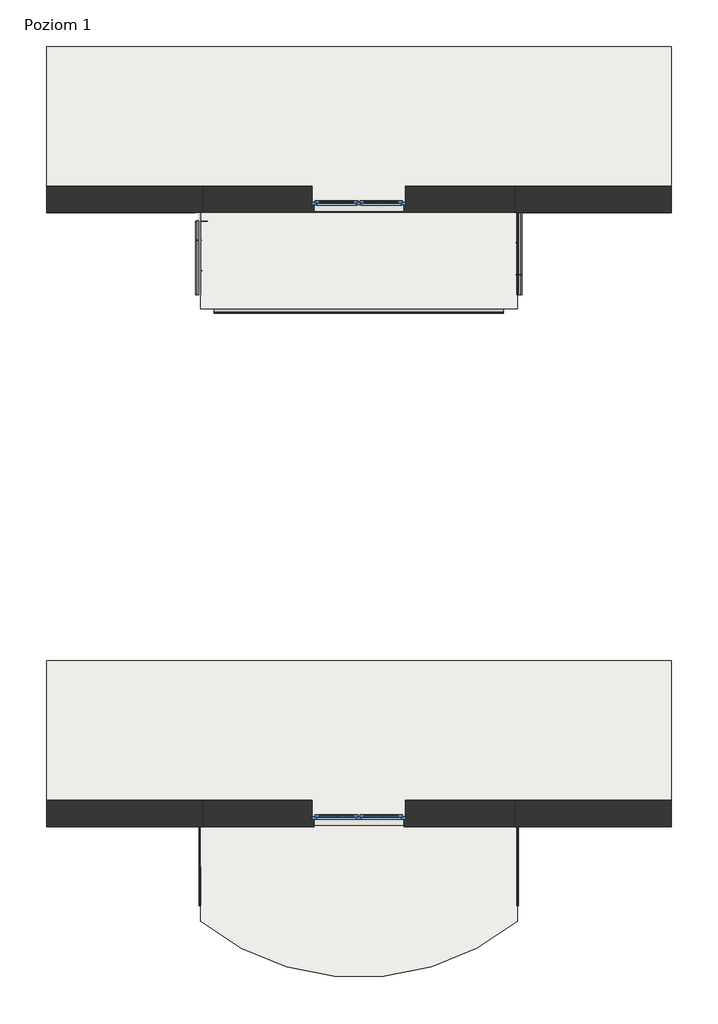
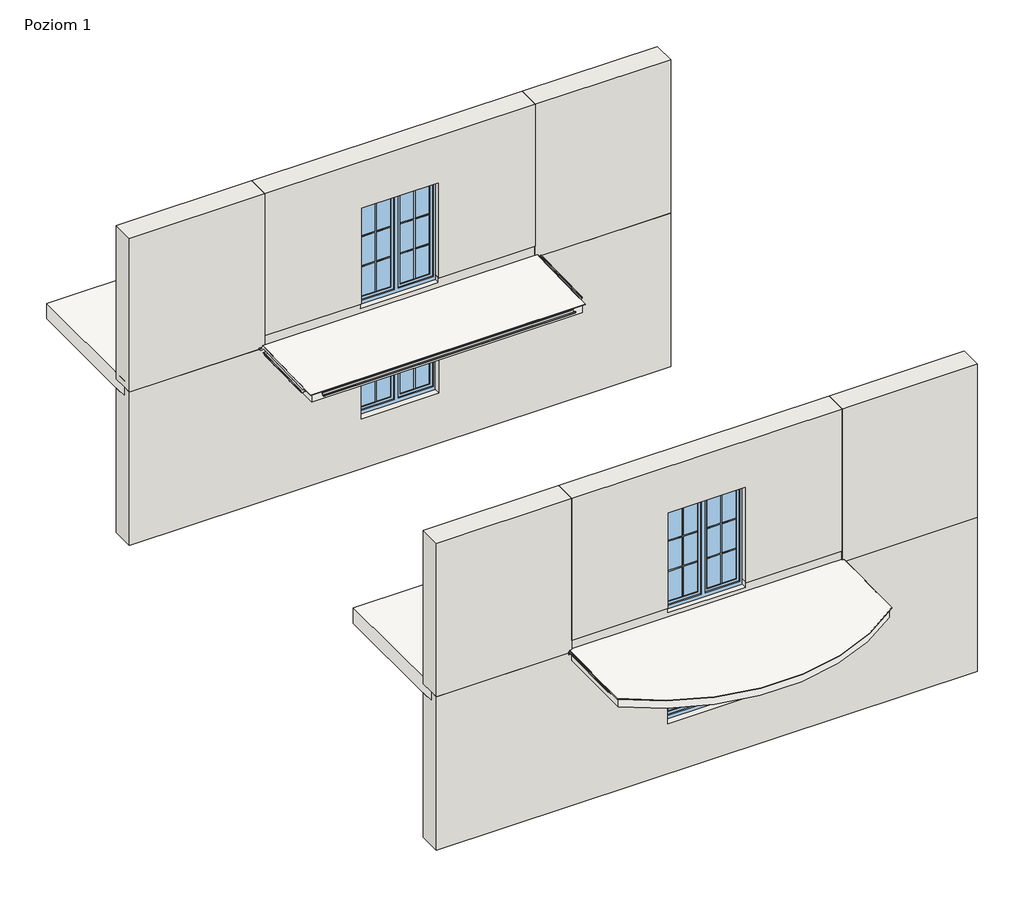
# One storey, part 1 of 4: 10 walls, 8 proxies, 6 slabs, 4 windows.
"""IFC4 building model written with IfcOpenShell, lengths in millimetres."""

from ifc_helpers import new_model, si_unit, frame, origin, place, context, project, spatial, polyline, circle_curve, ellipse_curve, outline, extrude, faceted_brep, transform, mapped, element, save
from ifc_brep_helpers import plane_surface, cylinder_surface, advanced_brep
from components import generic_models_18ada34d, generic_models_643b4672, k40_b5363764, k40_bf73bbdf, k40_0e8d84a9, rynna_alu_r75_rynna_alu_r75_52cbeec6, rynna_alu_r75_rynna_alu_r75_f71106fe, rynna_alu_r75_rynna_alu_r75_795bf1eb, window_150x150_51b7f79a, window_150x200_12b14935

model = new_model("IFC4")

# Units and contexts
model_context = context("Model", 3, world=origin())
ifc_project = project(units=[si_unit("LENGTHUNIT", "METRE", prefix="MILLI")], contexts=[model_context])

# Site, building, storey
site = spatial("IfcSite", under=ifc_project)
building = spatial("IfcBuilding", under=site)
storey = spatial("IfcBuildingStorey", under=building, Name="Poziom 1", Elevation=0.0)

# Proxies
placement = place(None, origin())
generic_models_shape = generic_models_18ada34d(model_context)
element("IfcBuildingElementProxy", 1, Name="Odbojnik - OPK40 : Odbojnik - OPK40", ObjectType="Odbojnik - OPK40 : Odbojnik - OPK40", at=placement, inside=storey, context=model_context, shape_type="MappedRepresentation", body=[
    mapped(generic_models_shape, transform((-97998.8460364, 46566.571688, -141.5905593), x_axis=(-0.002002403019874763, -0.999918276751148, -0.012626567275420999), y_axis=(0.9999979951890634, -0.0020022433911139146, -2.5283527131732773e-05), z_axis=(0.0, -0.0126265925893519, 0.9999202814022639))),
])
generic_models_2_shape = generic_models_643b4672(model_context)
element("IfcBuildingElementProxy", 2, Name="Odbojnik - OPK40 : Odbojnik - OPK40", ObjectType="Odbojnik - OPK40 : Odbojnik - OPK40", at=placement, inside=storey, context=model_context, shape_type="MappedRepresentation", body=[
    mapped(generic_models_2_shape, transform((-102991.9792681, 46576.4411516, -141.4659317), x_axis=(0.0016392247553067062, -0.9999189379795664, -0.01262657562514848), y_axis=(0.9999986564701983, 0.0016390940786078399, 2.069782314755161e-05), z_axis=(0.0, -0.0126265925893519, 0.9999202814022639))),
])
k40_shape = k40_b5363764(model_context)
element("IfcBuildingElementProxy", 3, Name="K40 Profil okapowy prosty z rynną : K40", ObjectType="K40 Profil okapowy prosty z rynną : K40", at=placement, inside=storey, context=model_context, shape_type="MappedRepresentation", body=[
    mapped(k40_shape, transform((-97960.9279978, 45309.9969157, -96.37542), x_axis=(0.002002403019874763, 0.999918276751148, 0.012626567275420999), y_axis=(-0.9999979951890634, 0.0020022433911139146, 2.5283527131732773e-05), z_axis=(0.0, -0.0126265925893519, 0.9999202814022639))),
])
k40_2_shape = k40_bf73bbdf(model_context)
element("IfcBuildingElementProxy", 4, Name="K40 Profil okapowy prosty z rynną : K40", ObjectType="K40 Profil okapowy prosty z rynną : K40", at=placement, inside=storey, context=model_context, shape_type="MappedRepresentation", body=[
    mapped(k40_2_shape, transform((-103030.3372348, 45310.0062743, -96.3753018), x_axis=(-0.0016392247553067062, 0.9999189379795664, 0.01262657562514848), y_axis=(-0.9999986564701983, -0.0016390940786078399, -2.069782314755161e-05), z_axis=(0.0, -0.0126265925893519, 0.9999202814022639))),
])
k40_3_shape = k40_0e8d84a9(model_context)
element("IfcBuildingElementProxy", 5, Name="K40 Profil okapowy prosty z rynną : K40", ObjectType="K40 Profil okapowy prosty z rynną : K40", at=placement, inside=storey, context=model_context, shape_type="MappedRepresentation", body=[
    mapped(k40_3_shape, transform((-97958.4147313, 55084.7621374, -104.9084444), x_axis=(0.0, 0.9997639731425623, 0.021725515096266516), y_axis=(-1.0, 0.0, 0.0), z_axis=(0.0, -0.021725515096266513, 0.9997639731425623))),
])
rynna_alu_r75_rynna_alu_r75_shape = rynna_alu_r75_rynna_alu_r75_52cbeec6(model_context)
element("IfcBuildingElementProxy", 6, Name="Rynna ALU R75 : Rynna ALU R75", ObjectType="Rynna ALU R75 : Rynna ALU R75", at=placement, inside=storey, context=model_context, shape_type="MappedRepresentation", body=[
    mapped(rynna_alu_r75_rynna_alu_r75_shape, transform((-103015.6237583, 55675.249269, -120.9154653), x_axis=(-1.4861025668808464e-12, -0.9997639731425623, -0.02172551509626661), y_axis=(1.0, -1.4857485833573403e-12, 0.0), z_axis=(0.0, -0.021725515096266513, 0.9997639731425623))),
])
rynna_alu_r75_rynna_alu_r75_2_shape = rynna_alu_r75_rynna_alu_r75_f71106fe(model_context)
element("IfcBuildingElementProxy", 7, Name="Rynna ALU R75 : Rynna ALU R75", ObjectType="Rynna ALU R75 : Rynna ALU R75", at=placement, inside=storey, context=model_context, shape_type="MappedRepresentation", body=[
    mapped(rynna_alu_r75_rynna_alu_r75_2_shape, transform((-100495.4147313, 54882.2274606, -138.14834), x_axis=(1.0, 0.0, 0.0), y_axis=(0.0, 0.9997639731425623, 0.021725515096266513), z_axis=(0.0, -0.021725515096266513, 0.9997639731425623))),
])
rynna_alu_r75_rynna_alu_r75_3_shape = rynna_alu_r75_rynna_alu_r75_795bf1eb(model_context)
element("IfcBuildingElementProxy", 8, Name="Rynna ALU R75 : Rynna ALU R75", ObjectType="Rynna ALU R75 : Rynna ALU R75", at=placement, inside=storey, context=model_context, shape_type="MappedRepresentation", body=[
    mapped(rynna_alu_r75_rynna_alu_r75_3_shape, transform((-97975.2057043, 55741.3502895, -119.4790476), x_axis=(0.0, 0.9997639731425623, 0.021725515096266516), y_axis=(-1.0, 0.0, 0.0), z_axis=(0.0, -0.021725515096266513, 0.9997639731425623))),
])

# Slabs
element("IfcSlab", 9, ObjectType="Balkon - wykończenie - posadzka ceramiczna", at=placement, inside=storey, context=model_context, shape_type="AdvancedBrep", body=[
    advanced_brep(
    [(-103032.4147313, 46685.9674703, -76.3), (-103032.4147313, 46685.9674703, -92.3), (-103032.4147313, 45060.2435474, -112.8289902), (-103032.4147313, 45060.2435474, -96.8289902), (-102995.4147313, 46685.9674703, -76.3), (-97995.4147313, 46685.9674703, -76.3), (-97958.4147313, 46685.9674703, -76.3), (-97958.4147313, 46685.9674703, -92.3), (-97958.4147313, 45060.2435474, -96.8289902), (-97958.4147313, 45060.2435474, -112.8289902)],
    [
        (0, 1),
        (1, 2),
        (2, 3),
        (3, 0),
        (0, 4),
        (4, 5),
        (5, 6),
        (6, 7),
        (7, 1),
        (6, 8),
        (8, 9),
        (9, 7),
        (3, 8, ellipse_curve(frame((-100495.4147313, 48200.4664695, -57.1755136), z_axis=(0.0, -0.0126265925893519, 0.9999202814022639), x_axis=(0.0, -0.9999202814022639, -0.0126265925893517)), 4037.3218496, 4037.0)),
        (9, 2, ellipse_curve(frame((-100495.4147313, 48200.4664695, -73.1755136), z_axis=(0.0, 0.0126265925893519, -0.9999202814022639), x_axis=(0.0, -0.9999202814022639, -0.0126265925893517)), 4037.3218496, 4037.0)),
    ],
    [
        plane_surface(frame((-103032.4147313, 44040.9674703, -125.7), z_axis=(-1.0, 0.0, 0.0), x_axis=(0.0, 0.0, 1.0))),
        plane_surface(frame((-103032.4147313, 46685.9674703, -125.7), z_axis=(0.0, 1.0, 0.0), x_axis=(0.0, 0.0, 1.0))),
        plane_surface(frame((-97958.4147313, 46685.9674703, -125.7), z_axis=(1.0, 0.0, 0.0), x_axis=(0.0, 0.0, 1.0))),
        plane_surface(frame((-100495.4147313, 45363.4674703, -93.0), z_axis=(0.0, -0.0126265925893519, 0.9999202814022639), x_axis=(0.0, 0.9999202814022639, 0.0126265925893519))),
        plane_surface(frame((-100495.4147313, 45363.4674703, -109.0), z_axis=(0.0, 0.0126265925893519, -0.9999202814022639), x_axis=(0.0, 0.9999202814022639, 0.0126265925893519))),
        cylinder_surface(frame((-100495.4147313, 48200.4664695, -430.5), z_axis=(0.0, 0.0, -1.0), x_axis=(1.0, 0.0, 0.0)), 4037.0),
    ],
    [
        (0, [[1, 2, 3, 4]]),
        (1, [[-1, 5, 6, 7, 8, 9]]),
        (2, [[-8, 10, 11, 12]]),
        (3, [[-7, -6, -5, -4, 13, -10]]),
        (4, [[-9, -12, 14, -2]]),
        (5, [[-3, -14, -11, -13]]),
    ],
),
])
element("IfcSlab", 10, ObjectType="Balkon - wykończenie - posadzka ceramiczna", at=placement, inside=storey, context=model_context, shape_type="SweptSolid", body=[
    extrude(outline(polyline([(54864.2645056, -125.7), (54864.2645056, -109.7), (56401.2645056, -76.3), (56401.2645056, -92.3), (54864.2645056, -125.7)])), frame((-103032.4147313, 0.0, 0.0), z_axis=(1.0, 0.0, 0.0), x_axis=(0.0, 1.0, 0.0)), (0.0, 0.0, 1.0), 5074.0),
])
element("IfcSlab", 11, ObjectType="Balkon - konstrukcja", at=placement, inside=storey, context=model_context, shape_type="AdvancedBrep", body=[
    advanced_brep(
    [(-102995.4147313, 46685.9674703, -285.0), (-97995.4147313, 46685.9674703, -285.0), (-97995.4147313, 46577.9674703, -285.0), (-97995.4147313, 45077.9674703, -285.0), (-102995.4147313, 45077.9674703, -285.0), (-102995.4147313, 46577.9674703, -285.0), (-102995.4147313, 46685.9674703, -92.3), (-102995.4147313, 46685.9674703, -125.0), (-102995.4147313, 45077.9674703, -112.4616564), (-97995.4147313, 46685.9674703, -92.3), (-97995.4147313, 46685.9674703, -125.0), (-97995.4147313, 45077.9674703, -112.4616564)],
    [
        (0, 1),
        (1, 2),
        (2, 3),
        (3, 4, circle_curve(frame((-100495.4147313, 48200.4664695, -285.0), z_axis=(0.0, 0.0, -1.0), x_axis=(1.0, 0.0, 0.0)), 4000.0)),
        (4, 5),
        (5, 0),
        (6, 7),
        (7, 0),
        (4, 8),
        (8, 6),
        (6, 9),
        (9, 10),
        (10, 1),
        (9, 11),
        (11, 3),
        (8, 11, ellipse_curve(frame((-100495.4147313, 48200.4664695, -73.3106912), z_axis=(0.0, -0.012537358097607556, 0.9999214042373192), x_axis=(0.0, -0.9999214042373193, -0.012537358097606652)), 4000.3144078, 4000.0)),
    ],
    [
        plane_surface(frame((-102995.4147313, 46685.9674703, -285.0), z_axis=(0.0, 0.0, -1.0), x_axis=(0.0, 1.0, 0.0))),
        plane_surface(frame((-102995.4147313, 44077.9674703, -285.0), z_axis=(-1.0, 0.0, 0.0), x_axis=(0.0, 0.0, 1.0))),
        plane_surface(frame((-102995.4147313, 46685.9674703, -285.0), z_axis=(0.0, 1.0, 0.0), x_axis=(0.0, 0.0, 1.0))),
        plane_surface(frame((-97995.4147313, 46685.9674703, -285.0), z_axis=(1.0, 0.0, 0.0), x_axis=(0.0, 0.0, 1.0))),
        plane_surface(frame((-100495.4147313, 45381.9674703, -108.65), z_axis=(0.0, -0.012537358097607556, 0.9999214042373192), x_axis=(0.0, 0.9999214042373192, 0.012537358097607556))),
        cylinder_surface(frame((-100495.4147313, 48200.4664695, -589.8), z_axis=(0.0, 0.0, -1.0), x_axis=(1.0, 0.0, 0.0)), 4000.0),
    ],
    [
        (0, [[1, 2, 3, 4, 5, 6]]),
        (1, [[7, 8, -6, -5, 9, 10]]),
        (2, [[-1, -8, -7, 11, 12, 13]]),
        (3, [[-13, -12, 14, 15, -3, -2]]),
        (4, [[-11, -10, 16, -14]]),
        (5, [[-4, -15, -16, -9]]),
    ],
),
])
element("IfcSlab", 12, ObjectType="Balkon - konstrukcja", at=placement, inside=storey, context=model_context, shape_type="Brep", body=[
    faceted_brep([(-102995.4147313, 54901.2645056, -285.0), (-102995.4147313, 56401.2645056, -285.0), (-102995.4147313, 56509.2645056, -285.0), (-97995.4147313, 56509.2645056, -285.0), (-97995.4147313, 56401.2645056, -285.0), (-97995.4147313, 54901.2645056, -285.0), (-102995.4147313, 54901.2645056, -125.0), (-102995.4147313, 56423.2645056, -94.0488806), (-102995.4147313, 56509.2645056, -92.3), (-102995.4147313, 56509.2645056, -125.0), (-97995.4147313, 56509.2645056, -92.3), (-97995.4147313, 56509.2645056, -125.0), (-97995.4147313, 54901.2645056, -125.0), (-97995.4147313, 56423.2645056, -94.0488806)], [[[0, 1, 2, 3, 4, 5]], [[2, 1, 0, 6, 7, 8, 9]], [[3, 2, 9, 8, 10, 11]], [[0, 5, 12, 6]], [[5, 4, 3, 11, 10, 13, 12]], [[12, 13, 10, 8, 7, 6]]]),
])
element("IfcSlab", 13, ObjectType="Strop", at=placement, inside=storey, context=model_context, shape_type="Brep", body=[
    faceted_brep([(-95495.4147313, 46732.9674703, -300.0), (-105495.4147313, 46732.9674703, -300.0), (-105495.4147313, 46997.9674703, -300.0), (-105495.4147313, 49232.9674703, -300.0), (-95495.4147313, 49232.9674703, -300.0), (-95495.4147313, 46997.9674703, -300.0), (-95495.4147313, 46732.9674703, 0.0), (-95495.4147313, 49232.9674703, 0.0), (-105495.4147313, 49232.9674703, 0.0), (-105495.4147313, 46732.9674703, 0.0), (-102995.4147313, 46732.9674703, 0.0), (-101245.4147313, 46732.9674703, 0.0), (-99745.4147313, 46732.9674703, 0.0), (-97995.4147313, 46732.9674703, 0.0), (-95495.4147313, 46732.9674703, -125.0), (-105495.4147313, 46732.9674703, -125.0)], [[[0, 1, 2, 3, 4, 5]], [[6, 7, 8, 9, 10, 11, 12, 13]], [[1, 0, 14, 6, 13, 12, 11, 10, 9, 15]], [[3, 2, 1, 15, 9, 8]], [[4, 3, 8, 7]], [[0, 5, 4, 7, 6, 14]]]),
])
element("IfcSlab", 14, ObjectType="Strop", at=placement, inside=storey, context=model_context, shape_type="Brep", body=[
    faceted_brep([(-95495.4147313, 56556.2645056, -300.0), (-105495.4147313, 56556.2645056, -300.0), (-105495.4147313, 56821.2645056, -300.0), (-105495.4147313, 59056.2645056, -300.0), (-95495.4147313, 59056.2645056, -300.0), (-95495.4147313, 56821.2645056, -300.0), (-95495.4147313, 56556.2645056, 0.0), (-95495.4147313, 59056.2645056, 0.0), (-105495.4147313, 59056.2645056, 0.0), (-105495.4147313, 56556.2645056, 0.0), (-102995.4147313, 56556.2645056, 0.0), (-101245.4147313, 56556.2645056, 0.0), (-99745.4147313, 56556.2645056, 0.0), (-97995.4147313, 56556.2645056, 0.0), (-95495.4147313, 56556.2645056, -125.0), (-105495.4147313, 56556.2645056, -125.0)], [[[0, 1, 2, 3, 4, 5]], [[6, 7, 8, 9, 10, 11, 12, 13]], [[1, 0, 14, 6, 13, 12, 11, 10, 9, 15]], [[3, 2, 1, 15, 9, 8]], [[4, 3, 8, 7]], [[0, 5, 4, 7, 6, 14]]]),
])

# Walls
element("IfcWall", 15, ObjectType="Porotherm P+W 25 + o15 + t", at=placement, inside=storey, context=model_context, shape_type="Brep", body=[
    faceted_brep([(-105495.4147313, 46577.9674703, -3125.0), (-95495.4147313, 46577.9674703, -3125.0), (-95495.4147313, 46577.9674703, -125.0), (-97995.4147313, 46577.9674703, -125.0), (-97995.4147313, 46577.9674703, -285.0), (-102995.4147313, 46577.9674703, -285.0), (-102995.4147313, 46577.9674703, -125.0), (-105495.4147313, 46577.9674703, -125.0), (-99775.4147313, 46577.9674703, -680.0), (-99775.4147313, 46577.9674703, -2150.0), (-101215.4147313, 46577.9674703, -2150.0), (-101215.4147313, 46577.9674703, -680.0), (-95495.4147313, 46997.9674703, -3125.0), (-105495.4147313, 46997.9674703, -3125.0), (-105495.4147313, 46997.9674703, -300.0), (-95495.4147313, 46997.9674703, -300.0), (-99745.4147313, 46997.9674703, -2150.0), (-99745.4147313, 46997.9674703, -650.0), (-101245.4147313, 46997.9674703, -650.0), (-101245.4147313, 46997.9674703, -2150.0), (-95495.4147313, 46732.9674703, -300.0), (-95495.4147313, 46732.9674703, -125.0), (-97995.4147313, 46732.9674703, -125.0), (-102995.4147313, 46732.9674703, -125.0), (-105495.4147313, 46732.9674703, -125.0), (-102995.4147313, 46685.9674703, -125.0), (-97995.4147313, 46685.9674703, -125.0), (-105495.4147313, 46732.9674703, -300.0), (-99745.4147313, 46697.9674703, -650.0), (-99745.4147313, 46697.9674703, -2150.0), (-99775.4147313, 46697.9674703, -680.0), (-99775.4147313, 46697.9674703, -2150.0), (-97995.4147313, 46685.9674703, -285.0), (-102995.4147313, 46685.9674703, -285.0), (-101245.4147313, 46697.9674703, -650.0), (-101245.4147313, 46697.9674703, -2150.0), (-101215.4147313, 46697.9674703, -2150.0), (-101215.4147313, 46697.9674703, -680.0)], [[[0, 1, 2, 3, 4, 5, 6, 7], [8, 9, 10, 11]], [[12, 13, 14, 15], [16, 17, 18, 19]], [[1, 0, 13, 12]], [[2, 1, 12, 15, 20, 21]], [[2, 21, 22, 23, 24, 7, 6, 25, 26, 3]], [[0, 7, 24, 27, 14, 13]], [[28, 17, 16, 29]], [[8, 30, 31, 9]], [[27, 20, 15, 14]], [[20, 27, 24, 23, 22, 21]], [[32, 33, 5, 4]], [[5, 33, 25, 6]], [[33, 32, 26, 25]], [[32, 4, 3, 26]], [[17, 28, 34, 18]], [[29, 16, 19, 35, 36, 10, 9, 31]], [[34, 28, 29, 31, 30, 37, 36, 35]], [[34, 35, 19, 18]], [[30, 8, 11, 37]], [[10, 36, 37, 11]]]),
])
element("IfcWall", 16, ObjectType="Porotherm P+W 25 + o15 + t", at=placement, inside=storey, context=model_context, shape_type="Brep", body=[
    faceted_brep([(-105495.4147313, 46577.9674703, -125.0), (-102995.4147313, 46577.9674703, -125.0), (-102995.4147313, 46577.9674703, 100.0), (-102995.4147313, 46577.9674703, 2875.0), (-105495.4147313, 46577.9674703, 2875.0), (-105495.4147313, 46997.9674703, -125.0), (-105495.4147313, 46997.9674703, 2875.0), (-102995.4147313, 46997.9674703, 2875.0), (-102995.4147313, 46997.9674703, 100.0), (-102995.4147313, 46997.9674703, 0.0), (-102995.4147313, 46997.9674703, -125.0), (-105495.4147313, 46732.9674703, -125.0), (-102995.4147313, 46732.9674703, -125.0), (-102995.4147313, 46685.9674703, -125.0)], [[[0, 1, 2, 3, 4]], [[5, 6, 7, 8, 9, 10]], [[1, 0, 11, 5, 10, 12, 13]], [[4, 3, 7, 6]], [[0, 4, 6, 5, 11]], [[1, 13, 12, 10, 9, 8, 7, 3, 2]]]),
])
element("IfcWall", 17, ObjectType="Porotherm P+W 25 + o15 + t", at=placement, inside=storey, context=model_context, shape_type="Brep", body=[
    faceted_brep([(-97995.4147313, 46577.9674703, 2875.0), (-97995.4147313, 46577.9674703, 100.0), (-97995.4147313, 46577.9674703, -125.0), (-95495.4147313, 46577.9674703, -125.0), (-95495.4147313, 46577.9674703, 2875.0), (-97995.4147313, 46997.9674703, -125.0), (-97995.4147313, 46997.9674703, 0.0), (-97995.4147313, 46997.9674703, 100.0), (-97995.4147313, 46997.9674703, 2875.0), (-95495.4147313, 46997.9674703, 2875.0), (-95495.4147313, 46997.9674703, -125.0), (-97995.4147313, 46685.9674703, -125.0), (-97995.4147313, 46732.9674703, -125.0), (-95495.4147313, 46732.9674703, -125.0)], [[[0, 1, 2, 3, 4]], [[5, 6, 7, 8, 9, 10]], [[3, 2, 11, 12, 5, 10, 13]], [[4, 3, 13, 10, 9]], [[0, 4, 9, 8]], [[0, 8, 7, 6, 5, 12, 11, 2, 1]]]),
])
element("IfcWall", 18, ObjectType="Porotherm P+W 25 + o12 + pł ceramiczne", at=placement, inside=storey, context=model_context, shape_type="Brep", body=[
    faceted_brep([(-97995.4147313, 46599.9674703, 100.0), (-99775.4147313, 46599.9674703, 100.0), (-99775.4147313, 46599.9674703, 0.0), (-101215.4147313, 46599.9674703, 0.0), (-101215.4147313, 46599.9674703, 100.0), (-102995.4147313, 46599.9674703, 100.0), (-102995.4147313, 46599.9674703, -77.3859735), (-97995.4147313, 46599.9674703, -77.3859735), (-97995.4147313, 46997.9674703, 100.0), (-97995.4147313, 46997.9674703, 0.0), (-99745.4147313, 46997.9674703, 0.0), (-99745.4147313, 46997.9674703, 100.0), (-102995.4147313, 46997.9674703, 0.0), (-102995.4147313, 46997.9674703, 100.0), (-101245.4147313, 46997.9674703, 100.0), (-101245.4147313, 46997.9674703, 0.0), (-102995.4147313, 46732.9674703, -125.0), (-97995.4147313, 46732.9674703, -125.0), (-97995.4147313, 46685.9674703, -125.0), (-102995.4147313, 46685.9674703, -125.0), (-97995.4147313, 46685.9674703, -76.3), (-97995.4147313, 46685.9674703, -92.3), (-97995.4147313, 46732.9674703, 0.0), (-99745.4147313, 46697.9674703, 100.0), (-99775.4147313, 46697.9674703, 100.0), (-101215.4147313, 46697.9674703, 100.0), (-101245.4147313, 46697.9674703, 100.0), (-102995.4147313, 46732.9674703, 0.0), (-102995.4147313, 46685.9674703, -92.3), (-102995.4147313, 46685.9674703, -76.3), (-101245.4147313, 46732.9674703, 0.0), (-99745.4147313, 46732.9674703, 0.0), (-101245.4147313, 46697.9674703, 0.0), (-101215.4147313, 46697.9674703, 0.0), (-99775.4147313, 46697.9674703, 0.0), (-99745.4147313, 46697.9674703, 0.0)], [[[0, 1, 2, 3, 4, 5, 6, 7]], [[8, 9, 10, 11]], [[12, 13, 14, 15]], [[16, 17, 18, 19]], [[8, 0, 7, 20, 21, 18, 17, 22, 9]], [[0, 8, 11, 23, 24, 1]], [[13, 5, 4, 25, 26, 14]], [[5, 13, 12, 27, 16, 19, 28, 29, 6]], [[12, 15, 30, 27]], [[9, 22, 31, 10]], [[17, 16, 27, 30, 31, 22]], [[19, 18, 21, 20, 29, 28]], [[29, 20, 7, 6]], [[32, 33, 3, 2, 34, 35, 31, 30]], [[33, 32, 26, 25]], [[35, 34, 24, 23]], [[35, 23, 11, 10, 31]], [[26, 32, 30, 15, 14]], [[34, 2, 1, 24]], [[3, 33, 25, 4]]]),
])
element("IfcWall", 19, ObjectType="Porotherm P+W 25 + o15 + t", at=placement, inside=storey, context=model_context, shape_type="Brep", body=[
    faceted_brep([(-97995.4147313, 46577.9674703, 100.0), (-97995.4147313, 46577.9674703, 2875.0), (-102995.4147313, 46577.9674703, 2875.0), (-102995.4147313, 46577.9674703, 100.0), (-101215.4147313, 46577.9674703, 100.0), (-101215.4147313, 46577.9674703, 1970.0), (-99775.4147313, 46577.9674703, 1970.0), (-99775.4147313, 46577.9674703, 100.0), (-97995.4147313, 46997.9674703, 2875.0), (-97995.4147313, 46997.9674703, 100.0), (-99745.4147313, 46997.9674703, 100.0), (-99745.4147313, 46997.9674703, 2000.0), (-101245.4147313, 46997.9674703, 2000.0), (-101245.4147313, 46997.9674703, 100.0), (-102995.4147313, 46997.9674703, 100.0), (-102995.4147313, 46997.9674703, 2875.0), (-102995.4147313, 46599.9674703, 100.0), (-101245.4147313, 46697.9674703, 100.0), (-101215.4147313, 46697.9674703, 100.0), (-101215.4147313, 46599.9674703, 100.0), (-97995.4147313, 46599.9674703, 100.0), (-99775.4147313, 46599.9674703, 100.0), (-99775.4147313, 46697.9674703, 100.0), (-99745.4147313, 46697.9674703, 100.0), (-99745.4147313, 46697.9674703, 2000.0), (-99775.4147313, 46697.9674703, 1970.0), (-101245.4147313, 46697.9674703, 2000.0), (-101215.4147313, 46697.9674703, 1970.0)], [[[0, 1, 2, 3, 4, 5, 6, 7]], [[8, 9, 10, 11, 12, 13, 14, 15]], [[3, 16, 14, 13, 17, 18, 19, 4]], [[9, 20, 0, 7, 21, 22, 23, 10]], [[1, 0, 20, 9, 8]], [[2, 1, 8, 15]], [[3, 2, 15, 14, 16]], [[24, 11, 10, 23]], [[6, 25, 22, 21, 7]], [[26, 12, 11, 24]], [[26, 24, 23, 22, 25, 27, 18, 17]], [[12, 26, 17, 13]], [[27, 25, 6, 5]], [[27, 5, 4, 19, 18]]]),
])
element("IfcWall", 20, ObjectType="Porotherm P+W 25 + o15 + t", at=placement, inside=storey, context=model_context, shape_type="Brep", body=[
    faceted_brep([(-105495.4147313, 56401.2645056, -3125.0), (-95495.4147313, 56401.2645056, -3125.0), (-95495.4147313, 56401.2645056, -125.0), (-97995.4147313, 56401.2645056, -125.0), (-97995.4147313, 56401.2645056, -285.0), (-102995.4147313, 56401.2645056, -285.0), (-102995.4147313, 56401.2645056, -125.0), (-105495.4147313, 56401.2645056, -125.0), (-99775.4147313, 56401.2645056, -680.0), (-99775.4147313, 56401.2645056, -2150.0), (-101215.4147313, 56401.2645056, -2150.0), (-101215.4147313, 56401.2645056, -680.0), (-95495.4147313, 56821.2645056, -3125.0), (-105495.4147313, 56821.2645056, -3125.0), (-105495.4147313, 56821.2645056, -300.0), (-95495.4147313, 56821.2645056, -300.0), (-99745.4147313, 56821.2645056, -2150.0), (-99745.4147313, 56821.2645056, -650.0), (-101245.4147313, 56821.2645056, -650.0), (-101245.4147313, 56821.2645056, -2150.0), (-95495.4147313, 56556.2645056, -300.0), (-95495.4147313, 56556.2645056, -125.0), (-97995.4147313, 56556.2645056, -125.0), (-102995.4147313, 56556.2645056, -125.0), (-105495.4147313, 56556.2645056, -125.0), (-102995.4147313, 56509.2645056, -125.0), (-97995.4147313, 56509.2645056, -125.0), (-105495.4147313, 56556.2645056, -300.0), (-99745.4147313, 56521.2645056, -650.0), (-99745.4147313, 56521.2645056, -2150.0), (-99775.4147313, 56521.2645056, -680.0), (-99775.4147313, 56521.2645056, -2150.0), (-97995.4147313, 56509.2645056, -285.0), (-102995.4147313, 56509.2645056, -285.0), (-101245.4147313, 56521.2645056, -650.0), (-101245.4147313, 56521.2645056, -2150.0), (-101215.4147313, 56521.2645056, -2150.0), (-101215.4147313, 56521.2645056, -680.0)], [[[0, 1, 2, 3, 4, 5, 6, 7], [8, 9, 10, 11]], [[12, 13, 14, 15], [16, 17, 18, 19]], [[1, 0, 13, 12]], [[2, 1, 12, 15, 20, 21]], [[2, 21, 22, 23, 24, 7, 6, 25, 26, 3]], [[0, 7, 24, 27, 14, 13]], [[28, 17, 16, 29]], [[8, 30, 31, 9]], [[27, 20, 15, 14]], [[20, 27, 24, 23, 22, 21]], [[32, 33, 5, 4]], [[5, 33, 25, 6]], [[33, 32, 26, 25]], [[32, 4, 3, 26]], [[17, 28, 34, 18]], [[29, 16, 19, 35, 36, 10, 9, 31]], [[34, 28, 29, 31, 30, 37, 36, 35]], [[34, 35, 19, 18]], [[30, 8, 11, 37]], [[10, 36, 37, 11]]]),
])
element("IfcWall", 21, ObjectType="Porotherm P+W 25 + o15 + t", at=placement, inside=storey, context=model_context, shape_type="Brep", body=[
    faceted_brep([(-105495.4147313, 56401.2645056, -125.0), (-102995.4147313, 56401.2645056, -125.0), (-102995.4147313, 56401.2645056, 100.0), (-102995.4147313, 56401.2645056, 2875.0), (-105495.4147313, 56401.2645056, 2875.0), (-105495.4147313, 56821.2645056, -125.0), (-105495.4147313, 56821.2645056, 2875.0), (-102995.4147313, 56821.2645056, 2875.0), (-102995.4147313, 56821.2645056, 100.0), (-102995.4147313, 56821.2645056, 0.0), (-102995.4147313, 56821.2645056, -125.0), (-105495.4147313, 56556.2645056, -125.0), (-102995.4147313, 56556.2645056, -125.0), (-102995.4147313, 56509.2645056, -125.0)], [[[0, 1, 2, 3, 4]], [[5, 6, 7, 8, 9, 10]], [[1, 0, 11, 5, 10, 12, 13]], [[4, 3, 7, 6]], [[0, 4, 6, 5, 11]], [[1, 13, 12, 10, 9, 8, 7, 3, 2]]]),
])
element("IfcWall", 22, ObjectType="Porotherm P+W 25 + o15 + t", at=placement, inside=storey, context=model_context, shape_type="Brep", body=[
    faceted_brep([(-97995.4147313, 56401.2645056, 2875.0), (-97995.4147313, 56401.2645056, 100.0), (-97995.4147313, 56401.2645056, -125.0), (-95495.4147313, 56401.2645056, -125.0), (-95495.4147313, 56401.2645056, 2875.0), (-97995.4147313, 56821.2645056, -125.0), (-97995.4147313, 56821.2645056, 0.0), (-97995.4147313, 56821.2645056, 100.0), (-97995.4147313, 56821.2645056, 2875.0), (-95495.4147313, 56821.2645056, 2875.0), (-95495.4147313, 56821.2645056, -125.0), (-97995.4147313, 56509.2645056, -125.0), (-97995.4147313, 56556.2645056, -125.0), (-95495.4147313, 56556.2645056, -125.0)], [[[0, 1, 2, 3, 4]], [[5, 6, 7, 8, 9, 10]], [[3, 2, 11, 12, 5, 10, 13]], [[4, 3, 13, 10, 9]], [[0, 4, 9, 8]], [[0, 8, 7, 6, 5, 12, 11, 2, 1]]]),
])
element("IfcWall", 23, ObjectType="Porotherm P+W 25 + o12 + pł ceramiczne", at=placement, inside=storey, context=model_context, shape_type="Brep", body=[
    faceted_brep([(-97995.4147313, 56423.2645056, 100.0), (-99775.4147313, 56423.2645056, 100.0), (-99775.4147313, 56423.2645056, 0.0), (-101215.4147313, 56423.2645056, 0.0), (-101215.4147313, 56423.2645056, 100.0), (-102995.4147313, 56423.2645056, 100.0), (-102995.4147313, 56423.2645056, -94.0488806), (-97995.4147313, 56423.2645056, -94.0488806), (-102995.4147313, 56821.2645056, 0.0), (-102995.4147313, 56821.2645056, 100.0), (-101245.4147313, 56821.2645056, 100.0), (-101245.4147313, 56821.2645056, 0.0), (-97995.4147313, 56821.2645056, 100.0), (-97995.4147313, 56821.2645056, 0.0), (-99745.4147313, 56821.2645056, 0.0), (-99745.4147313, 56821.2645056, 100.0), (-102995.4147313, 56556.2645056, -125.0), (-97995.4147313, 56556.2645056, -125.0), (-97995.4147313, 56509.2645056, -125.0), (-102995.4147313, 56509.2645056, -125.0), (-97995.4147313, 56509.2645056, -92.3), (-97995.4147313, 56556.2645056, 0.0), (-99745.4147313, 56521.2645056, 100.0), (-99775.4147313, 56521.2645056, 100.0), (-101215.4147313, 56521.2645056, 100.0), (-101245.4147313, 56521.2645056, 100.0), (-102995.4147313, 56556.2645056, 0.0), (-102995.4147313, 56509.2645056, -92.3), (-101245.4147313, 56556.2645056, 0.0), (-99745.4147313, 56556.2645056, 0.0), (-101245.4147313, 56521.2645056, 0.0), (-101215.4147313, 56521.2645056, 0.0), (-99775.4147313, 56521.2645056, 0.0), (-99745.4147313, 56521.2645056, 0.0)], [[[0, 1, 2, 3, 4, 5, 6, 7]], [[8, 9, 10, 11]], [[12, 13, 14, 15]], [[16, 17, 18, 19]], [[12, 0, 7, 20, 18, 17, 21, 13]], [[0, 12, 15, 22, 23, 1]], [[9, 5, 4, 24, 25, 10]], [[5, 9, 8, 26, 16, 19, 27, 6]], [[8, 11, 28, 26]], [[13, 21, 29, 14]], [[17, 16, 26, 28, 29, 21]], [[20, 27, 19, 18]], [[27, 20, 7, 6]], [[30, 31, 3, 2, 32, 33, 29, 28]], [[31, 30, 25, 24]], [[33, 32, 23, 22]], [[33, 22, 15, 14, 29]], [[25, 30, 28, 11, 10]], [[32, 2, 1, 23]], [[3, 31, 24, 4]]]),
])
element("IfcWall", 24, ObjectType="Porotherm P+W 25 + o15 + t", at=placement, inside=storey, context=model_context, shape_type="Brep", body=[
    faceted_brep([(-97995.4147313, 56401.2645056, 100.0), (-97995.4147313, 56401.2645056, 2875.0), (-102995.4147313, 56401.2645056, 2875.0), (-102995.4147313, 56401.2645056, 100.0), (-101215.4147313, 56401.2645056, 100.0), (-101215.4147313, 56401.2645056, 1970.0), (-99775.4147313, 56401.2645056, 1970.0), (-99775.4147313, 56401.2645056, 100.0), (-97995.4147313, 56821.2645056, 2875.0), (-97995.4147313, 56821.2645056, 100.0), (-99745.4147313, 56821.2645056, 100.0), (-99745.4147313, 56821.2645056, 2000.0), (-101245.4147313, 56821.2645056, 2000.0), (-101245.4147313, 56821.2645056, 100.0), (-102995.4147313, 56821.2645056, 100.0), (-102995.4147313, 56821.2645056, 2875.0), (-102995.4147313, 56423.2645056, 100.0), (-101245.4147313, 56521.2645056, 100.0), (-101215.4147313, 56521.2645056, 100.0), (-101215.4147313, 56423.2645056, 100.0), (-97995.4147313, 56423.2645056, 100.0), (-99775.4147313, 56423.2645056, 100.0), (-99775.4147313, 56521.2645056, 100.0), (-99745.4147313, 56521.2645056, 100.0), (-99745.4147313, 56521.2645056, 2000.0), (-99775.4147313, 56521.2645056, 1970.0), (-101245.4147313, 56521.2645056, 2000.0), (-101215.4147313, 56521.2645056, 1970.0)], [[[0, 1, 2, 3, 4, 5, 6, 7]], [[8, 9, 10, 11, 12, 13, 14, 15]], [[3, 16, 14, 13, 17, 18, 19, 4]], [[9, 20, 0, 7, 21, 22, 23, 10]], [[1, 0, 20, 9, 8]], [[2, 1, 8, 15]], [[3, 2, 15, 14, 16]], [[24, 11, 10, 23]], [[6, 25, 22, 21, 7]], [[26, 12, 11, 24]], [[26, 24, 23, 22, 25, 27, 18, 17]], [[12, 26, 17, 13]], [[27, 25, 6, 5]], [[27, 5, 4, 19, 18]]]),
])

# Windows
window_150x150_shape = window_150x150_51b7f79a(model_context)
element("IfcWindow", 25, ObjectType="OKNO_2X_W_SZ : 150x150", at=placement, inside=storey, context=model_context, shape_type="MappedRepresentation", body=[
    mapped(window_150x150_shape, transform((-100495.4147313, 46787.9674703, -3000.0), x_axis=(-1.0, 0.0, 0.0), y_axis=(0.0, -1.0, 0.0), z_axis=(0.0, 0.0, 1.0))),
])
element("IfcWindow", 26, ObjectType="OKNO_2X_W_SZ : 150x150", at=placement, inside=storey, context=model_context, shape_type="MappedRepresentation", body=[
    mapped(window_150x150_shape, transform((-100495.4147313, 56611.2645056, -3000.0), x_axis=(-1.0, 0.0, 0.0), y_axis=(0.0, -1.0, 0.0), z_axis=(0.0, 0.0, 1.0))),
])
window_150x200_shape = window_150x200_12b14935(model_context)
element("IfcWindow", 27, ObjectType="OKNO_2X_W_SZ : 150x200", at=placement, inside=storey, context=model_context, shape_type="MappedRepresentation", body=[
    mapped(window_150x200_shape, transform((-100495.4147313, 46787.9674703, -850.0), x_axis=(-1.0, 0.0, 0.0), y_axis=(0.0, -1.0, 0.0), z_axis=(0.0, 0.0, 1.0))),
])
element("IfcWindow", 28, ObjectType="OKNO_2X_W_SZ : 150x200", at=placement, inside=storey, context=model_context, shape_type="MappedRepresentation", body=[
    mapped(window_150x200_shape, transform((-100495.4147313, 56611.2645056, -850.0), x_axis=(-1.0, 0.0, 0.0), y_axis=(0.0, -1.0, 0.0), z_axis=(0.0, 0.0, 1.0))),
])

save(model, "model.ifc")
